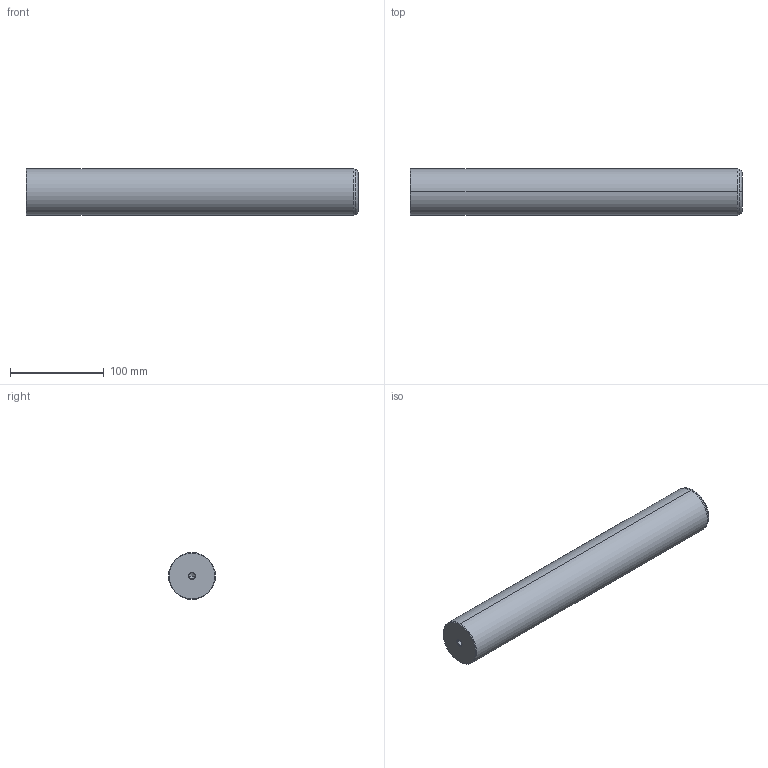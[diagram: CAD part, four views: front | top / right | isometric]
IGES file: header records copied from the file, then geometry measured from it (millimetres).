
Start section: START RECORD GO HERE.
Global section: file name: 720-50x355.igs; native system: DASSAULT SYSTEMES CATIA V5 R20 - www.3ds.com; preprocessor: CATIA Version 5 Release 20 ; author: Utente; organization: NB04-ASUS; date: 20201230.223912; units: millimetre
Bounding box: 355 x 50 x 50 mm (x, y, z)
Surface area: 60282.9 mm2 (no closed solid volume)
Topology: 0 solids, 0 shells, 22 faces, 120 edges, 116 vertices
Faces by surface type: revolution 20, plane 2
